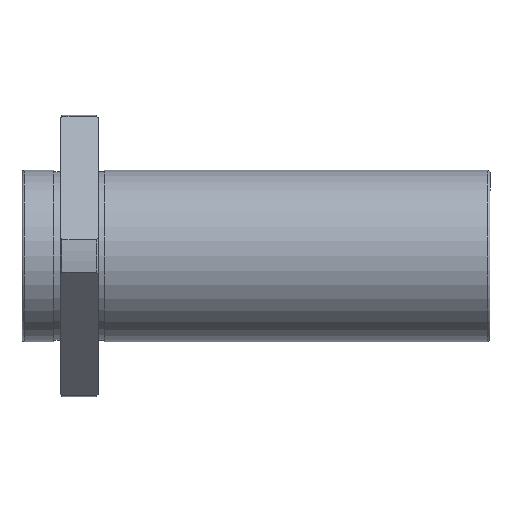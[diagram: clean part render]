
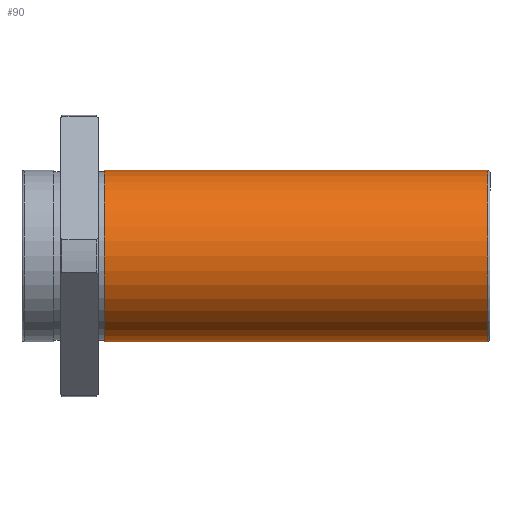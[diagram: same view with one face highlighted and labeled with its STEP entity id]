
A CAD part, front view. The second image highlights one B-rep face of the part: STEP entity #90.
In plain terms, the highlighted cylindrical face has radius 22.5 mm (diameter 45 mm), a full revolution.
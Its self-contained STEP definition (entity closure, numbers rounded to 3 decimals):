
#90=ADVANCED_FACE('',(#160,#161),#162,.T.);
#160=FACE_OUTER_BOUND('',#275,.T.);
#161=FACE_OUTER_BOUND('',#276,.T.);
#162=CYLINDRICAL_SURFACE('',#277,22.5);
#275=EDGE_LOOP('',(#453));
#276=EDGE_LOOP('',(#454));
#277=AXIS2_PLACEMENT_3D('',#455,#456,#457);
#453=ORIENTED_EDGE('',*,*,#671,.T.);
#454=ORIENTED_EDGE('',*,*,#661,.T.);
#455=CARTESIAN_POINT('',(103.0,0.0,0.));
#456=DIRECTION('',(1.0,-0.0,0.));
#457=DIRECTION('',(0.0,-1.0,0.0));
#661=EDGE_CURVE('',#770,#770,#771,.F.);
#671=EDGE_CURVE('',#790,#790,#791,.T.);
#770=VERTEX_POINT('',#946);
#771=CIRCLE('',#947,22.5);
#790=VERTEX_POINT('',#966);
#791=CIRCLE('',#967,22.5);
#946=CARTESIAN_POINT('',(102.4,0.,-22.5));
#947=AXIS2_PLACEMENT_3D('',#1098,#1099,#1100);
#966=CARTESIAN_POINT('',(1.6,0.0,-22.5));
#967=AXIS2_PLACEMENT_3D('',#1128,#1129,#1130);
#1098=CARTESIAN_POINT('',(102.4,0.0,0.));
#1099=DIRECTION('',(1.0,0.0,0.));
#1100=DIRECTION('',(0.,0.0,-1.0));
#1128=CARTESIAN_POINT('',(1.6,0.0,0.));
#1129=DIRECTION('',(1.0,0.0,0.));
#1130=DIRECTION('',(0.,0.0,-1.0));
